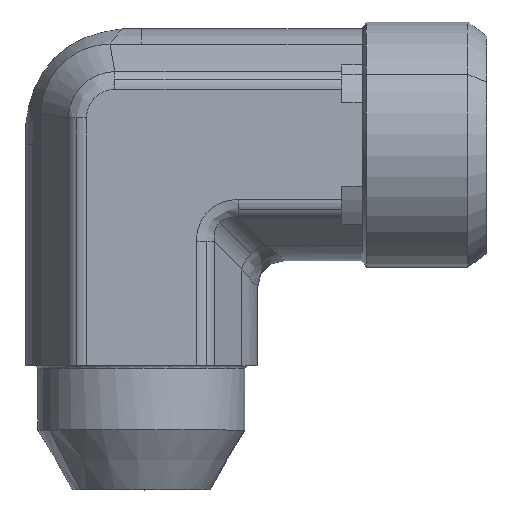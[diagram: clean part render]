
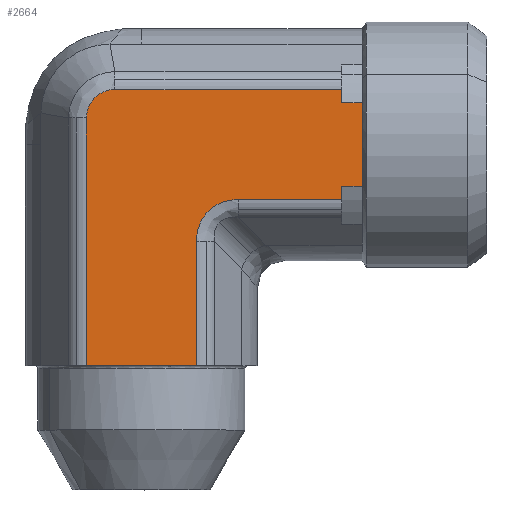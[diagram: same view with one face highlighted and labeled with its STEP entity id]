
A CAD part, top view. The second image highlights one B-rep face of the part: STEP entity #2664.
In plain terms, the highlighted planar face has unit normal (0, 0, 1) as drawn and (0, -1, 0) by its records, which use the part's own axes.
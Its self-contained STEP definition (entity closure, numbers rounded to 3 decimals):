
#361=CARTESIAN_POINT('',(2.515,-8.4,3.984));
#362=VERTEX_POINT('',#361);
#370=CARTESIAN_POINT('',(11.5,-8.4,3.984));
#371=VERTEX_POINT('',#370);
#372=CARTESIAN_POINT('',(2.515,-8.4,3.984));
#373=DIRECTION('',(1.0,0.0,0.0));
#374=VECTOR('',#373,8.985);
#375=LINE('',#372,#374);
#376=EDGE_CURVE('',#362,#371,#375,.T.);
#485=CARTESIAN_POINT('',(-8.484,-8.4,-1.926));
#486=VERTEX_POINT('',#485);
#494=CARTESIAN_POINT('',(-8.484,-8.4,14.5));
#495=VERTEX_POINT('',#494);
#496=CARTESIAN_POINT('',(-8.484,-8.4,-1.926));
#497=DIRECTION('',(0.0,0.0,1.0));
#498=VECTOR('',#497,16.426);
#499=LINE('',#496,#498);
#500=EDGE_CURVE('',#486,#495,#499,.T.);
#735=CARTESIAN_POINT('',(-4.5,-8.4,16.));
#736=VERTEX_POINT('',#735);
#1703=CARTESIAN_POINT('',(11.5,-8.4,-3.984));
#1704=VERTEX_POINT('',#1703);
#1705=CARTESIAN_POINT('',(11.5,-8.4,-3.984));
#1706=DIRECTION('',(0.0,0.0,1.0));
#1707=VECTOR('',#1706,7.967);
#1708=LINE('',#1705,#1707);
#1709=EDGE_CURVE('',#1704,#371,#1708,.T.);
#2172=CARTESIAN_POINT('',(-0.516,-8.4,14.5));
#2173=VERTEX_POINT('',#2172);
#2174=CARTESIAN_POINT('',(-1.484,-8.4,14.5));
#2175=VERTEX_POINT('',#2174);
#2176=CARTESIAN_POINT('',(-0.516,-8.4,14.5));
#2177=DIRECTION('',(-1.0,0.0,0.0));
#2178=VECTOR('',#2177,0.968);
#2179=LINE('',#2176,#2178);
#2180=EDGE_CURVE('',#2173,#2175,#2179,.T.);
#2229=CARTESIAN_POINT('',(-7.516,-8.4,14.5));
#2230=VERTEX_POINT('',#2229);
#2231=CARTESIAN_POINT('',(-7.516,-8.4,14.5));
#2232=DIRECTION('',(-1.0,0.0,0.0));
#2233=VECTOR('',#2232,0.968);
#2234=LINE('',#2231,#2233);
#2235=EDGE_CURVE('',#2230,#495,#2234,.T.);
#2334=CARTESIAN_POINT('',(-1.484,-8.4,16.0));
#2335=VERTEX_POINT('',#2334);
#2336=CARTESIAN_POINT('',(-1.484,-8.4,14.5));
#2337=DIRECTION('',(0.0,0.0,1.0));
#2338=VECTOR('',#2337,1.5);
#2339=LINE('',#2336,#2338);
#2340=EDGE_CURVE('',#2175,#2335,#2339,.T.);
#2368=CARTESIAN_POINT('',(-7.516,-8.4,16.0));
#2369=VERTEX_POINT('',#2368);
#2370=CARTESIAN_POINT('',(-7.516,-8.4,16.0));
#2371=DIRECTION('',(0.0,0.0,-1.0));
#2372=VECTOR('',#2371,1.5);
#2373=LINE('',#2370,#2372);
#2374=EDGE_CURVE('',#2369,#2230,#2373,.T.);
#2584=CARTESIAN_POINT('',(-4.5,-8.4,16.));
#2585=DIRECTION('',(-1.0,0.0,0.0));
#2586=VECTOR('',#2585,3.016);
#2587=LINE('',#2584,#2586);
#2588=EDGE_CURVE('',#736,#2369,#2587,.T.);
#2607=CARTESIAN_POINT('',(-4.5,-8.4,-3.175));
#2608=DIRECTION('',(0.0,-1.0,0.0));
#2609=DIRECTION('',(0.0,0.0,-1.0));
#2610=AXIS2_PLACEMENT_3D('',#2607,#2608,#2609);
#2611=PLANE('',#2610);
#2612=ORIENTED_EDGE('',*,*,#2374,.T.);
#2613=ORIENTED_EDGE('',*,*,#2235,.T.);
#2614=ORIENTED_EDGE('',*,*,#500,.F.);
#2615=CARTESIAN_POINT('',(-6.426,-8.4,-3.984));
#2616=VERTEX_POINT('',#2615);
#2617=CARTESIAN_POINT('',(-8.484,-8.4,-1.926));
#2618=CARTESIAN_POINT('',(-8.484,-8.4,-2.06));
#2619=CARTESIAN_POINT('',(-8.47,-8.4,-2.195));
#2620=CARTESIAN_POINT('',(-8.402,-8.4,-2.54));
#2621=CARTESIAN_POINT('',(-8.326,-8.4,-2.743));
#2622=CARTESIAN_POINT('',(-8.051,-8.4,-3.233));
#2623=CARTESIAN_POINT('',(-7.806,-8.4,-3.49));
#2624=CARTESIAN_POINT('',(-7.186,-8.4,-3.876));
#2625=CARTESIAN_POINT('',(-6.806,-8.4,-3.984));
#2626=CARTESIAN_POINT('',(-6.426,-8.4,-3.984));
#2627=B_SPLINE_CURVE_WITH_KNOTS('',3,(#2617,#2618,#2619,#2620,#2621,#2622,#2623,#2624,#2625,#2626),.UNSPECIFIED.,.F.,.U.,(4,2,2,2,4),(-3.216,-2.814,-2.171,-1.142,0.0),.UNSPECIFIED.);
#2628=EDGE_CURVE('',#2616,#486,#2627,.F.);
#2629=ORIENTED_EDGE('',*,*,#2628,.F.);
#2630=CARTESIAN_POINT('',(11.5,-8.4,-3.984));
#2631=DIRECTION('',(-1.0,0.0,0.0));
#2632=VECTOR('',#2631,17.926);
#2633=LINE('',#2630,#2632);
#2634=EDGE_CURVE('',#1704,#2616,#2633,.T.);
#2635=ORIENTED_EDGE('',*,*,#2634,.F.);
#2636=ORIENTED_EDGE('',*,*,#1709,.T.);
#2637=ORIENTED_EDGE('',*,*,#376,.F.);
#2638=CARTESIAN_POINT('',(-0.516,-8.4,7.015));
#2639=VERTEX_POINT('',#2638);
#2640=CARTESIAN_POINT('',(3.525,-8.4,8.025));
#2641=DIRECTION('',(0.,-1.,0.));
#2642=DIRECTION('',(-0.707,0.,-0.707));
#2643=AXIS2_PLACEMENT_3D('',#2640,#2641,#2642);
#2644=ELLIPSE('',#2643,4.518,3.5);
#2645=EDGE_CURVE('',#2639,#362,#2644,.T.);
#2646=ORIENTED_EDGE('',*,*,#2645,.F.);
#2647=CARTESIAN_POINT('',(-0.516,-8.4,14.5));
#2648=DIRECTION('',(0.0,0.0,-1.0));
#2649=VECTOR('',#2648,7.485);
#2650=LINE('',#2647,#2649);
#2651=EDGE_CURVE('',#2173,#2639,#2650,.T.);
#2652=ORIENTED_EDGE('',*,*,#2651,.F.);
#2653=ORIENTED_EDGE('',*,*,#2180,.T.);
#2654=ORIENTED_EDGE('',*,*,#2340,.T.);
#2655=CARTESIAN_POINT('',(-1.484,-8.4,16.0));
#2656=DIRECTION('',(-1.0,0.0,0.0));
#2657=VECTOR('',#2656,3.016);
#2658=LINE('',#2655,#2657);
#2659=EDGE_CURVE('',#2335,#736,#2658,.T.);
#2660=ORIENTED_EDGE('',*,*,#2659,.T.);
#2661=ORIENTED_EDGE('',*,*,#2588,.T.);
#2662=EDGE_LOOP('',(#2612,#2613,#2614,#2629,#2635,#2636,#2637,#2646,#2652,#2653,#2654,#2660,#2661));
#2663=FACE_OUTER_BOUND('',#2662,.T.);
#2664=ADVANCED_FACE('',(#2663),#2611,.T.);
